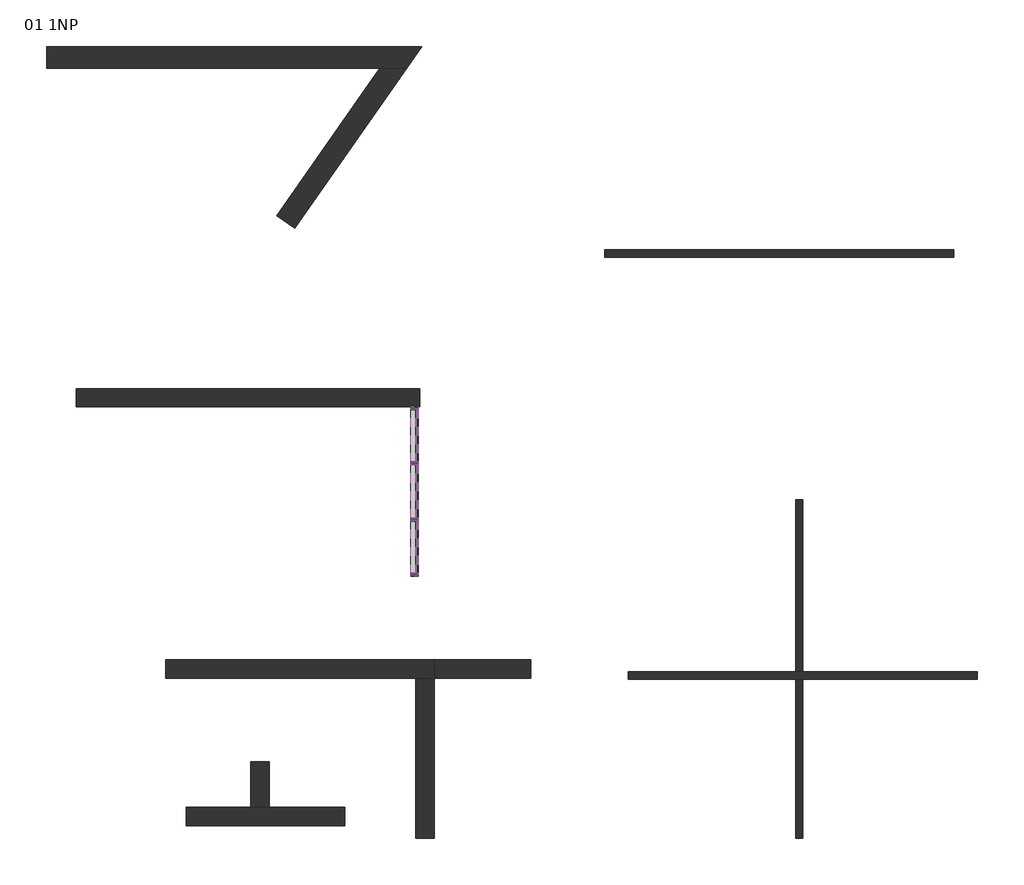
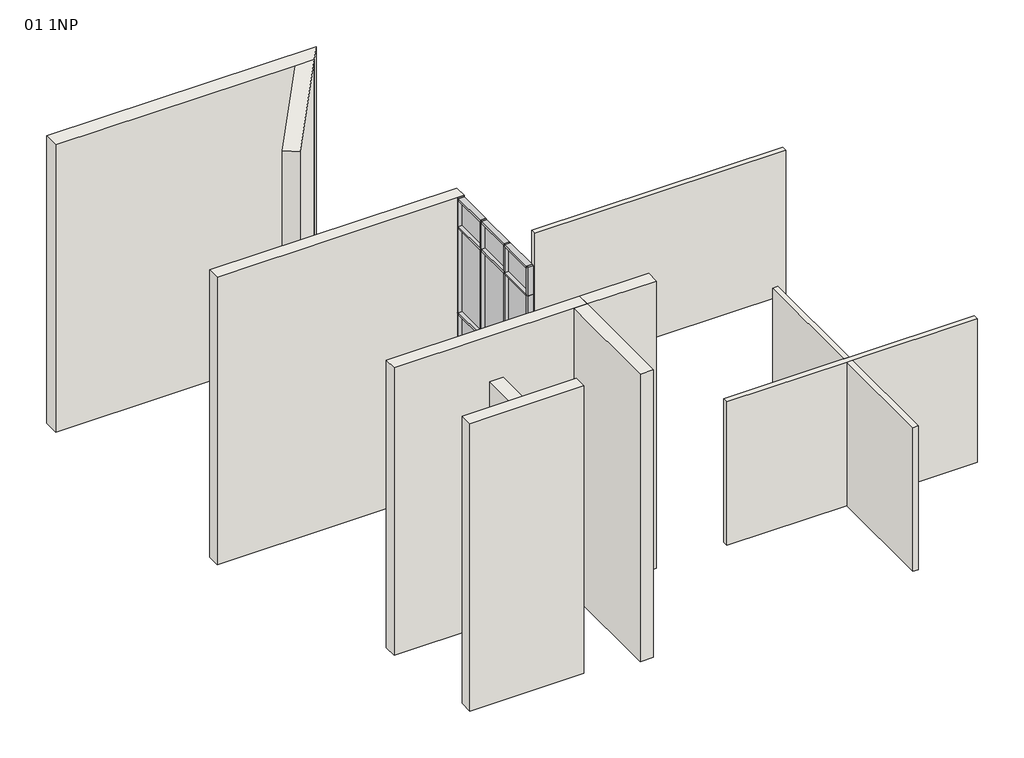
# One storey: 31 members, 12 plates, 11 walls.
"""IFC4 building model written with IfcOpenShell, lengths in millimetres."""

from ifc_helpers import new_model, si_unit, origin, origin_with_axes, place, context, project, spatial, polyline, outline, extrude, faceted_brep, transform, mapped, element, save
from components import rectangular_mullion_50_x_150mm_e14efa60, rectangular_mullion_50_x_150mm_992fb0bb, rectangular_mullion_50_x_150mm_ae8d583d, rectangular_mullion_50_x_150mm_b795b8ac, rectangular_mullion_50_x_150mm_6225e4e3, rectangular_mullion_50_x_150mm_14f10ac7, rectangular_mullion_50_x_150mm_662c37b1, rectangular_mullion_50_x_150mm_6ffebc0f, system_panel_glazed_8dd02efa, system_panel_glazed_773a8fa9, system_panel_glazed_e41b610d, system_panel_glazed_fe8bebd6, system_panel_glazed_96c1c5f2, system_panel_glazed_4c0efa74

model = new_model("IFC4")

# Units and contexts
model_context = context("Model", 3, world=origin())
ifc_project = project(units=[si_unit("LENGTHUNIT", "METRE", prefix="MILLI")], contexts=[model_context])

# Site, building, storey
site = spatial("IfcSite", under=ifc_project)
building = spatial("IfcBuilding", under=site)
storey = spatial("IfcBuildingStorey", under=building, Name="01 1NP", Elevation=0.0)

# Members
placement = place(None, origin())
rectangular_mullion_50_x_150mm_shape = rectangular_mullion_50_x_150mm_e14efa60(model_context)
element("IfcMember", 1, ObjectType="Rectangular Mullion : 50 x 150mm", at=placement, inside=storey, context=model_context, shape_type="MappedRepresentation", body=[
    mapped(rectangular_mullion_50_x_150mm_shape, transform((34112.6661728, 11548.4674082, 8000.0), x_axis=(0.0, 0.0, 1.0), y_axis=(-1.0, 0.0, 0.0), z_axis=(0.0, -1.0, 0.0))),
])
element("IfcMember", 2, ObjectType="Rectangular Mullion : 50 x 150mm", at=placement, inside=storey, context=model_context, shape_type="MappedRepresentation", body=[
    mapped(rectangular_mullion_50_x_150mm_shape, transform((34112.6661728, 13656.8007416, 8000.0), x_axis=(0.0, 0.0, 1.0), y_axis=(-1.0, 0.0, 0.0), z_axis=(0.0, -1.0, 0.0))),
])
rectangular_mullion_50_x_150mm_2_shape = rectangular_mullion_50_x_150mm_992fb0bb(model_context)
element("IfcMember", 3, ObjectType="Rectangular Mullion : 50 x 150mm", at=placement, inside=storey, context=model_context, shape_type="MappedRepresentation", body=[
    mapped(rectangular_mullion_50_x_150mm_2_shape, transform((34112.6661728, 12590.1340749, 8000.0), x_axis=(0.0, 0.0, 1.0), y_axis=(-1.0, 0.0, 0.0), z_axis=(0.0, -1.0, 0.0))),
])
element("IfcMember", 4, ObjectType="Rectangular Mullion : 50 x 150mm", at=placement, inside=storey, context=model_context, shape_type="MappedRepresentation", body=[
    mapped(rectangular_mullion_50_x_150mm_shape, transform((34112.6661728, 14648.4674082, 0.0), x_axis=(0.0, 0.0, -1.0), y_axis=(-1.0, 0.0, 0.0), z_axis=(0.0, 1.0, 0.0))),
])
element("IfcMember", 5, ObjectType="Rectangular Mullion : 50 x 150mm", at=placement, inside=storey, context=model_context, shape_type="MappedRepresentation", body=[
    mapped(rectangular_mullion_50_x_150mm_shape, transform((34112.6661728, 12540.1340749, 0.0), x_axis=(0.0, 0.0, -1.0), y_axis=(-1.0, 0.0, 0.0), z_axis=(0.0, 1.0, 0.0))),
])
element("IfcMember", 6, ObjectType="Rectangular Mullion : 50 x 150mm", at=placement, inside=storey, context=model_context, shape_type="MappedRepresentation", body=[
    mapped(rectangular_mullion_50_x_150mm_2_shape, transform((34112.6661728, 13606.8007416, 0.0), x_axis=(0.0, 0.0, -1.0), y_axis=(-1.0, 0.0, 0.0), z_axis=(0.0, 1.0, 0.0))),
])
rectangular_mullion_50_x_150mm_3_shape = rectangular_mullion_50_x_150mm_ae8d583d(model_context)
element("IfcMember", 7, ObjectType="Rectangular Mullion : 50 x 150mm", at=placement, inside=storey, context=model_context, shape_type="MappedRepresentation", body=[
    mapped(rectangular_mullion_50_x_150mm_3_shape, transform((34112.6661728, 13656.8007416, 2400.0), x_axis=(0.0, 0.0, 1.0), y_axis=(-1.0, 0.0, 0.0), z_axis=(0.0, -1.0, 0.0))),
])
element("IfcMember", 8, ObjectType="Rectangular Mullion : 50 x 150mm", at=placement, inside=storey, context=model_context, shape_type="MappedRepresentation", body=[
    mapped(rectangular_mullion_50_x_150mm_3_shape, transform((34112.6661728, 11548.4674082, 2400.0), x_axis=(0.0, 0.0, 1.0), y_axis=(-1.0, 0.0, 0.0), z_axis=(0.0, -1.0, 0.0))),
])
element("IfcMember", 9, ObjectType="Rectangular Mullion : 50 x 150mm", at=placement, inside=storey, context=model_context, shape_type="MappedRepresentation", body=[
    mapped(rectangular_mullion_50_x_150mm_3_shape, transform((34112.6661728, 13656.8007416, 4800.0), x_axis=(0.0, 0.0, 1.0), y_axis=(-1.0, 0.0, 0.0), z_axis=(0.0, -1.0, 0.0))),
])
element("IfcMember", 10, ObjectType="Rectangular Mullion : 50 x 150mm", at=placement, inside=storey, context=model_context, shape_type="MappedRepresentation", body=[
    mapped(rectangular_mullion_50_x_150mm_3_shape, transform((34112.6661728, 11548.4674082, 4800.0), x_axis=(0.0, 0.0, 1.0), y_axis=(-1.0, 0.0, 0.0), z_axis=(0.0, -1.0, 0.0))),
])
element("IfcMember", 11, ObjectType="Rectangular Mullion : 50 x 150mm", at=placement, inside=storey, context=model_context, shape_type="MappedRepresentation", body=[
    mapped(rectangular_mullion_50_x_150mm_3_shape, transform((34112.6661728, 13656.8007416, 7200.0), x_axis=(0.0, 0.0, 1.0), y_axis=(-1.0, 0.0, 0.0), z_axis=(0.0, -1.0, 0.0))),
])
element("IfcMember", 12, ObjectType="Rectangular Mullion : 50 x 150mm", at=placement, inside=storey, context=model_context, shape_type="MappedRepresentation", body=[
    mapped(rectangular_mullion_50_x_150mm_3_shape, transform((34112.6661728, 11548.4674082, 7200.0), x_axis=(0.0, 0.0, 1.0), y_axis=(-1.0, 0.0, 0.0), z_axis=(0.0, -1.0, 0.0))),
])
rectangular_mullion_50_x_150mm_4_shape = rectangular_mullion_50_x_150mm_b795b8ac(model_context)
element("IfcMember", 13, ObjectType="Rectangular Mullion : 50 x 150mm", at=placement, inside=storey, context=model_context, shape_type="MappedRepresentation", body=[
    mapped(rectangular_mullion_50_x_150mm_4_shape, transform((34112.6661728, 12590.1340749, 2400.0), x_axis=(0.0, 0.0, 1.0), y_axis=(-1.0, 0.0, 0.0), z_axis=(0.0, -1.0, 0.0))),
])
element("IfcMember", 14, ObjectType="Rectangular Mullion : 50 x 150mm", at=placement, inside=storey, context=model_context, shape_type="MappedRepresentation", body=[
    mapped(rectangular_mullion_50_x_150mm_4_shape, transform((34112.6661728, 12590.1340749, 4800.0), x_axis=(0.0, 0.0, 1.0), y_axis=(-1.0, 0.0, 0.0), z_axis=(0.0, -1.0, 0.0))),
])
element("IfcMember", 15, ObjectType="Rectangular Mullion : 50 x 150mm", at=placement, inside=storey, context=model_context, shape_type="MappedRepresentation", body=[
    mapped(rectangular_mullion_50_x_150mm_4_shape, transform((34112.6661728, 12590.1340749, 7200.0), x_axis=(0.0, 0.0, 1.0), y_axis=(-1.0, 0.0, 0.0), z_axis=(0.0, -1.0, 0.0))),
])
rectangular_mullion_50_x_150mm_5_shape = rectangular_mullion_50_x_150mm_6225e4e3(model_context)
element("IfcMember", 16, ObjectType="Rectangular Mullion : 50 x 150mm", at=placement, inside=storey, context=model_context, shape_type="MappedRepresentation", body=[
    mapped(rectangular_mullion_50_x_150mm_5_shape, transform((34112.6661728, 13631.8007416, 0.0), x_axis=(0.0, -1.0, 0.0), y_axis=(-1.0, 0.0, 0.0), z_axis=(0.0, 0.0, -1.0))),
])
element("IfcMember", 17, ObjectType="Rectangular Mullion : 50 x 150mm", at=placement, inside=storey, context=model_context, shape_type="MappedRepresentation", body=[
    mapped(rectangular_mullion_50_x_150mm_5_shape, transform((34112.6661728, 12565.1340749, 0.0), x_axis=(0.0, -1.0, 0.0), y_axis=(-1.0, 0.0, 0.0), z_axis=(0.0, 0.0, -1.0))),
])
element("IfcMember", 18, ObjectType="Rectangular Mullion : 50 x 150mm", at=placement, inside=storey, context=model_context, shape_type="MappedRepresentation", body=[
    mapped(rectangular_mullion_50_x_150mm_5_shape, transform((34112.6661728, 13631.8007416, 2400.0), x_axis=(0.0, -1.0, 0.0), y_axis=(-1.0, 0.0, 0.0), z_axis=(0.0, 0.0, -1.0))),
])
element("IfcMember", 19, ObjectType="Rectangular Mullion : 50 x 150mm", at=placement, inside=storey, context=model_context, shape_type="MappedRepresentation", body=[
    mapped(rectangular_mullion_50_x_150mm_5_shape, transform((34112.6661728, 12565.1340749, 2400.0), x_axis=(0.0, -1.0, 0.0), y_axis=(-1.0, 0.0, 0.0), z_axis=(0.0, 0.0, -1.0))),
])
element("IfcMember", 20, ObjectType="Rectangular Mullion : 50 x 150mm", at=placement, inside=storey, context=model_context, shape_type="MappedRepresentation", body=[
    mapped(rectangular_mullion_50_x_150mm_5_shape, transform((34112.6661728, 13631.8007416, 4800.0), x_axis=(0.0, -1.0, 0.0), y_axis=(-1.0, 0.0, 0.0), z_axis=(0.0, 0.0, -1.0))),
])
element("IfcMember", 21, ObjectType="Rectangular Mullion : 50 x 150mm", at=placement, inside=storey, context=model_context, shape_type="MappedRepresentation", body=[
    mapped(rectangular_mullion_50_x_150mm_5_shape, transform((34112.6661728, 12565.1340749, 4800.0), x_axis=(0.0, -1.0, 0.0), y_axis=(-1.0, 0.0, 0.0), z_axis=(0.0, 0.0, -1.0))),
])
rectangular_mullion_50_x_150mm_6_shape = rectangular_mullion_50_x_150mm_14f10ac7(model_context)
element("IfcMember", 22, ObjectType="Rectangular Mullion : 50 x 150mm", at=placement, inside=storey, context=model_context, shape_type="MappedRepresentation", body=[
    mapped(rectangular_mullion_50_x_150mm_6_shape, transform((34112.6661728, 13631.8007416, 7200.0), x_axis=(0.0, -1.0, 0.0), y_axis=(-1.0, 0.0, 0.0), z_axis=(0.0, 0.0, -1.0))),
])
element("IfcMember", 23, ObjectType="Rectangular Mullion : 50 x 150mm", at=placement, inside=storey, context=model_context, shape_type="MappedRepresentation", body=[
    mapped(rectangular_mullion_50_x_150mm_6_shape, transform((34112.6661728, 12565.1340749, 7200.0), x_axis=(0.0, -1.0, 0.0), y_axis=(-1.0, 0.0, 0.0), z_axis=(0.0, 0.0, -1.0))),
])
rectangular_mullion_50_x_150mm_7_shape = rectangular_mullion_50_x_150mm_662c37b1(model_context)
element("IfcMember", 24, ObjectType="Rectangular Mullion : 50 x 150mm", at=placement, inside=storey, context=model_context, shape_type="MappedRepresentation", body=[
    mapped(rectangular_mullion_50_x_150mm_7_shape, transform((34112.6661728, 11498.4674082, 0.0), x_axis=(0.0, -1.0, 0.0), y_axis=(-1.0, 0.0, 0.0), z_axis=(0.0, 0.0, -1.0))),
])
element("IfcMember", 25, ObjectType="Rectangular Mullion : 50 x 150mm", at=placement, inside=storey, context=model_context, shape_type="MappedRepresentation", body=[
    mapped(rectangular_mullion_50_x_150mm_7_shape, transform((34112.6661728, 11498.4674082, 2400.0), x_axis=(0.0, -1.0, 0.0), y_axis=(-1.0, 0.0, 0.0), z_axis=(0.0, 0.0, -1.0))),
])
element("IfcMember", 26, ObjectType="Rectangular Mullion : 50 x 150mm", at=placement, inside=storey, context=model_context, shape_type="MappedRepresentation", body=[
    mapped(rectangular_mullion_50_x_150mm_7_shape, transform((34112.6661728, 11498.4674082, 4800.0), x_axis=(0.0, -1.0, 0.0), y_axis=(-1.0, 0.0, 0.0), z_axis=(0.0, 0.0, -1.0))),
])
rectangular_mullion_50_x_150mm_8_shape = rectangular_mullion_50_x_150mm_6ffebc0f(model_context)
element("IfcMember", 27, ObjectType="Rectangular Mullion : 50 x 150mm", at=placement, inside=storey, context=model_context, shape_type="MappedRepresentation", body=[
    mapped(rectangular_mullion_50_x_150mm_8_shape, transform((34112.6661728, 11498.4674082, 7200.0), x_axis=(0.0, -1.0, 0.0), y_axis=(-1.0, 0.0, 0.0), z_axis=(0.0, 0.0, -1.0))),
])
element("IfcMember", 28, ObjectType="Rectangular Mullion : 50 x 150mm", at=placement, inside=storey, context=model_context, shape_type="MappedRepresentation", body=[
    mapped(rectangular_mullion_50_x_150mm_8_shape, transform((34112.6661728, 14698.4674082, 8000.0), x_axis=(0.0, 1.0, 0.0), y_axis=(-1.0, 0.0, 0.0), z_axis=(0.0, 0.0, 1.0))),
])
element("IfcMember", 29, ObjectType="Rectangular Mullion : 50 x 150mm", at=placement, inside=storey, context=model_context, shape_type="MappedRepresentation", body=[
    mapped(rectangular_mullion_50_x_150mm_7_shape, transform((34112.6661728, 14698.4674082, 2400.0), x_axis=(0.0, 1.0, 0.0), y_axis=(-1.0, 0.0, 0.0), z_axis=(0.0, 0.0, 1.0))),
])
element("IfcMember", 30, ObjectType="Rectangular Mullion : 50 x 150mm", at=placement, inside=storey, context=model_context, shape_type="MappedRepresentation", body=[
    mapped(rectangular_mullion_50_x_150mm_7_shape, transform((34112.6661728, 14698.4674082, 4800.0), x_axis=(0.0, 1.0, 0.0), y_axis=(-1.0, 0.0, 0.0), z_axis=(0.0, 0.0, 1.0))),
])
element("IfcMember", 31, ObjectType="Rectangular Mullion : 50 x 150mm", at=placement, inside=storey, context=model_context, shape_type="MappedRepresentation", body=[
    mapped(rectangular_mullion_50_x_150mm_7_shape, transform((34112.6661728, 14698.4674082, 7200.0), x_axis=(0.0, 1.0, 0.0), y_axis=(-1.0, 0.0, 0.0), z_axis=(0.0, 0.0, 1.0))),
])

# Plates
system_panel_glazed_shape = system_panel_glazed_8dd02efa(model_context)
element("IfcPlate", 32, ObjectType="System Panel : Glazed", at=placement, inside=storey, context=model_context, shape_type="MappedRepresentation", body=[
    mapped(system_panel_glazed_shape, transform((34112.6661728, 14152.6340749, 50.0), x_axis=(0.0, -1.0, 0.0), y_axis=(1.0, 0.0, 0.0), z_axis=(0.0, 0.0, 1.0))),
])
element("IfcPlate", 33, ObjectType="System Panel : Glazed", at=placement, inside=storey, context=model_context, shape_type="MappedRepresentation", body=[
    mapped(system_panel_glazed_shape, transform((34112.6661728, 12044.3007416, 50.0), x_axis=(0.0, -1.0, 0.0), y_axis=(1.0, 0.0, 0.0), z_axis=(0.0, 0.0, 1.0))),
])
system_panel_glazed_2_shape = system_panel_glazed_773a8fa9(model_context)
element("IfcPlate", 34, ObjectType="System Panel : Glazed", at=placement, inside=storey, context=model_context, shape_type="MappedRepresentation", body=[
    mapped(system_panel_glazed_2_shape, transform((34112.6661728, 13098.4674082, 50.0), x_axis=(0.0, -1.0, 0.0), y_axis=(1.0, 0.0, 0.0), z_axis=(0.0, 0.0, 1.0))),
])
system_panel_glazed_3_shape = system_panel_glazed_e41b610d(model_context)
element("IfcPlate", 35, ObjectType="System Panel : Glazed", at=placement, inside=storey, context=model_context, shape_type="MappedRepresentation", body=[
    mapped(system_panel_glazed_3_shape, transform((34112.6661728, 14152.6340749, 2425.0), x_axis=(0.0, -1.0, 0.0), y_axis=(1.0, 0.0, 0.0), z_axis=(0.0, 0.0, 1.0))),
])
element("IfcPlate", 36, ObjectType="System Panel : Glazed", at=placement, inside=storey, context=model_context, shape_type="MappedRepresentation", body=[
    mapped(system_panel_glazed_3_shape, transform((34112.6661728, 12044.3007416, 2425.0), x_axis=(0.0, -1.0, 0.0), y_axis=(1.0, 0.0, 0.0), z_axis=(0.0, 0.0, 1.0))),
])
element("IfcPlate", 37, ObjectType="System Panel : Glazed", at=placement, inside=storey, context=model_context, shape_type="MappedRepresentation", body=[
    mapped(system_panel_glazed_3_shape, transform((34112.6661728, 14152.6340749, 4825.0), x_axis=(0.0, -1.0, 0.0), y_axis=(1.0, 0.0, 0.0), z_axis=(0.0, 0.0, 1.0))),
])
element("IfcPlate", 38, ObjectType="System Panel : Glazed", at=placement, inside=storey, context=model_context, shape_type="MappedRepresentation", body=[
    mapped(system_panel_glazed_3_shape, transform((34112.6661728, 12044.3007416, 4825.0), x_axis=(0.0, -1.0, 0.0), y_axis=(1.0, 0.0, 0.0), z_axis=(0.0, 0.0, 1.0))),
])
system_panel_glazed_4_shape = system_panel_glazed_fe8bebd6(model_context)
element("IfcPlate", 39, ObjectType="System Panel : Glazed", at=placement, inside=storey, context=model_context, shape_type="MappedRepresentation", body=[
    mapped(system_panel_glazed_4_shape, transform((34112.6661728, 13098.4674082, 2425.0), x_axis=(0.0, -1.0, 0.0), y_axis=(1.0, 0.0, 0.0), z_axis=(0.0, 0.0, 1.0))),
])
element("IfcPlate", 40, ObjectType="System Panel : Glazed", at=placement, inside=storey, context=model_context, shape_type="MappedRepresentation", body=[
    mapped(system_panel_glazed_4_shape, transform((34112.6661728, 13098.4674082, 4825.0), x_axis=(0.0, -1.0, 0.0), y_axis=(1.0, 0.0, 0.0), z_axis=(0.0, 0.0, 1.0))),
])
system_panel_glazed_5_shape = system_panel_glazed_96c1c5f2(model_context)
element("IfcPlate", 41, ObjectType="System Panel : Glazed", at=placement, inside=storey, context=model_context, shape_type="MappedRepresentation", body=[
    mapped(system_panel_glazed_5_shape, transform((34112.6661728, 14152.6340749, 7225.0), x_axis=(0.0, -1.0, 0.0), y_axis=(1.0, 0.0, 0.0), z_axis=(0.0, 0.0, 1.0))),
])
element("IfcPlate", 42, ObjectType="System Panel : Glazed", at=placement, inside=storey, context=model_context, shape_type="MappedRepresentation", body=[
    mapped(system_panel_glazed_5_shape, transform((34112.6661728, 12044.3007416, 7225.0), x_axis=(0.0, -1.0, 0.0), y_axis=(1.0, 0.0, 0.0), z_axis=(0.0, 0.0, 1.0))),
])
system_panel_glazed_6_shape = system_panel_glazed_4c0efa74(model_context)
element("IfcPlate", 43, ObjectType="System Panel : Glazed", at=placement, inside=storey, context=model_context, shape_type="MappedRepresentation", body=[
    mapped(system_panel_glazed_6_shape, transform((34112.6661728, 13098.4674082, 7225.0), x_axis=(0.0, -1.0, 0.0), y_axis=(1.0, 0.0, 0.0), z_axis=(0.0, 0.0, 1.0))),
])

# Walls
element("IfcWall", 44, ObjectType="Vnejsi - Cihla na kov.skeletu", at=placement, inside=storey, context=model_context, shape_type="Brep", body=[
    faceted_brep([(29409.371621, 9563.1265002, 0.0), (34137.6661728, 9563.1265002, 0.0), (34487.6661728, 9563.1265002, 0.0), (34487.6661728, 9563.1265002, 8000.0), (34137.6661728, 9563.1265002, 8000.0), (29409.371621, 9563.1265002, 8000.0), (29409.371621, 9913.1265002, 0.0), (29409.371621, 9913.1265002, 8000.0), (34487.6661728, 9913.1265002, 8000.0), (34487.6661728, 9913.1265002, 0.0)], [[[0, 1, 2, 3, 4, 5]], [[6, 7, 8, 9]], [[2, 1, 0, 6, 9]], [[5, 4, 3, 8, 7]], [[0, 5, 7, 6]], [[3, 2, 9, 8]]]),
])
element("IfcWall", 45, ObjectType="Vnejsi - Cihla na kov.skeletu", at=placement, inside=storey, context=model_context, shape_type="SweptSolid", body=[
    extrude(outline(polyline([(34137.6661728, 6538.1265002), (34137.6661728, 9563.1265002), (34487.6661728, 9563.1265002), (34487.6661728, 6538.1265002), (34137.6661728, 6538.1265002)])), origin_with_axes(), (0.0, 0.0, 1.0), 8000.0),
])
element("IfcWall", 46, ObjectType="Vnejsi - Cihla na kov.skeletu", at=placement, inside=storey, context=model_context, shape_type="Brep", body=[
    faceted_brep([(29795.6362438, 6776.0085352, 0.0), (32795.6362438, 6776.0085352, 0.0), (32795.6362438, 6776.0085352, 8000.0), (29795.6362438, 6776.0085352, 8000.0), (29795.6362438, 7126.0085352, 0.0), (29795.6362438, 7126.0085352, 8000.0), (31020.6362438, 7126.0085352, 8000.0), (31370.6362438, 7126.0085352, 8000.0), (32795.6362438, 7126.0085352, 8000.0), (32795.6362438, 7126.0085352, 0.0), (31370.6362438, 7126.0085352, 0.0), (31020.6362438, 7126.0085352, 0.0)], [[[0, 1, 2, 3]], [[4, 5, 6, 7, 8, 9, 10, 11]], [[1, 0, 4, 11, 10, 9]], [[2, 1, 9, 8]], [[3, 2, 8, 7, 6, 5]], [[0, 3, 5, 4]]]),
])
element("IfcWall", 47, ObjectType="Vnejsi - Cihla na kov.skeletu", at=placement, inside=storey, context=model_context, shape_type="SweptSolid", body=[
    extrude(outline(polyline([(31370.6362438, 7989.0085352), (31370.6362438, 7126.0085352), (31020.6362438, 7126.0085352), (31020.6362438, 7989.0085352), (31370.6362438, 7989.0085352)])), origin_with_axes(), (0.0, 0.0, 1.0), 8000.0),
])
element("IfcWall", 48, ObjectType="Vnejsi - Cihla na kov.skeletu", at=placement, inside=storey, context=model_context, shape_type="SweptSolid", body=[
    extrude(outline(polyline([(36307.6661728, 9563.1265002), (34487.6661728, 9563.1265002), (34487.6661728, 9913.1265002), (36307.6661728, 9913.1265002), (36307.6661728, 9563.1265002)])), origin_with_axes(), (0.0, 0.0, 1.0), 8000.0),
])
element("IfcWall", 49, ObjectType="CW 102-85-140p", at=placement, inside=storey, context=model_context, shape_type="SweptSolid", body=[
    extrude(outline(polyline([(34212.6661728, 14698.4674082), (27712.6661728, 14698.4674082), (27712.6661728, 15037.4674082), (34212.6661728, 15037.4674082), (34212.6661728, 14698.4674082)])), origin_with_axes(), (0.0, 0.0, 1.0), 8000.0),
])
element("IfcWall", 50, ObjectType="CW 102-85-215p", at=placement, inside=storey, context=model_context, shape_type="Brep", body=[
    faceted_brep([(27155.633835, 21097.1949196, 0.0), (33457.9905347, 21097.1949196, 0.0), (33963.3912144, 21097.1949196, 0.0), (33963.3912144, 21097.1949196, 8000.0), (33457.9905347, 21097.1949196, 8000.0), (27155.633835, 21097.1949196, 8000.0), (27155.633835, 21511.1949196, 0.0), (27155.633835, 21511.1949196, 8000.0), (34253.2771353, 21511.1949196, 8000.0), (34253.2771353, 21511.1949196, 0.0)], [[[0, 1, 2, 3, 4, 5]], [[6, 7, 8, 9]], [[2, 1, 0, 6, 9]], [[5, 4, 3, 8, 7]], [[0, 5, 7, 6]], [[3, 2, 9, 8]]]),
])
element("IfcWall", 51, ObjectType="CW 102-85-215p", at=placement, inside=storey, context=model_context, shape_type="SweptSolid", body=[
    extrude(outline(polyline([(31506.4789037, 18310.1474736), (33457.9905347, 21097.1949196), (33963.3912144, 21097.1949196), (31845.60785, 18072.686829), (31506.4789037, 18310.1474736)])), origin_with_axes(), (0.0, 0.0, 1.0), 8000.0),
])
element("IfcWall", 52, ObjectType="Interior - 138mm Partition (1-hr)", at=placement, inside=storey, context=model_context, shape_type="SweptSolid", body=[
    extrude(outline(polyline([(44312.6661728, 17529.4674082), (37712.6661728, 17529.4674082), (37712.6661728, 17667.9674082), (44312.6661728, 17667.9674082), (44312.6661728, 17529.4674082)])), origin_with_axes(), (0.0, 0.0, 1.0), 4000.0),
])
element("IfcWall", 53, ObjectType="Interior - 138mm Partition (1-hr)", at=placement, inside=storey, context=model_context, shape_type="Brep", body=[
    faceted_brep([(38157.1604609, 9548.624448, 0.0), (41318.4161728, 9548.624448, 0.0), (41456.9161728, 9548.624448, 0.0), (44757.1604609, 9548.624448, 0.0), (44757.1604609, 9548.624448, 4000.0), (41456.9161728, 9548.624448, 4000.0), (41318.4161728, 9548.624448, 4000.0), (38157.1604609, 9548.624448, 4000.0), (38157.1604609, 9687.124448, 0.0), (38157.1604609, 9687.124448, 4000.0), (41318.4161728, 9687.124448, 4000.0), (41456.9161728, 9687.124448, 4000.0), (44757.1604609, 9687.124448, 4000.0), (44757.1604609, 9687.124448, 0.0), (41456.9161728, 9687.124448, 0.0), (41318.4161728, 9687.124448, 0.0)], [[[0, 1, 2, 3, 4, 5, 6, 7]], [[8, 9, 10, 11, 12, 13, 14, 15]], [[3, 2, 1, 0, 8, 15, 14, 13]], [[4, 3, 13, 12]], [[7, 6, 5, 4, 12, 11, 10, 9]], [[0, 7, 9, 8]]]),
])
element("IfcWall", 54, ObjectType="Interior - 138mm Partition (1-hr)", at=placement, inside=storey, context=model_context, shape_type="SweptSolid", body=[
    extrude(outline(polyline([(41318.4161728, 12938.1265002), (41456.9161728, 12938.1265002), (41456.9161728, 9687.124448), (41318.4161728, 9687.124448), (41318.4161728, 12938.1265002)])), origin_with_axes(), (0.0, 0.0, 1.0), 4000.0),
    extrude(outline(polyline([(41456.9161728, 6538.1265002), (41318.4161728, 6538.1265002), (41318.4161728, 9548.624448), (41456.9161728, 9548.624448), (41456.9161728, 6538.1265002)])), origin_with_axes(), (0.0, 0.0, 1.0), 4000.0),
])

save(model, "model.ifc")
